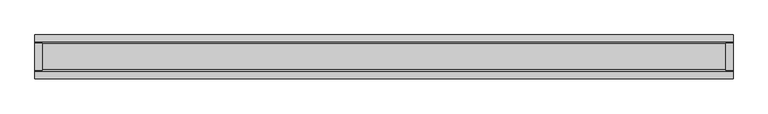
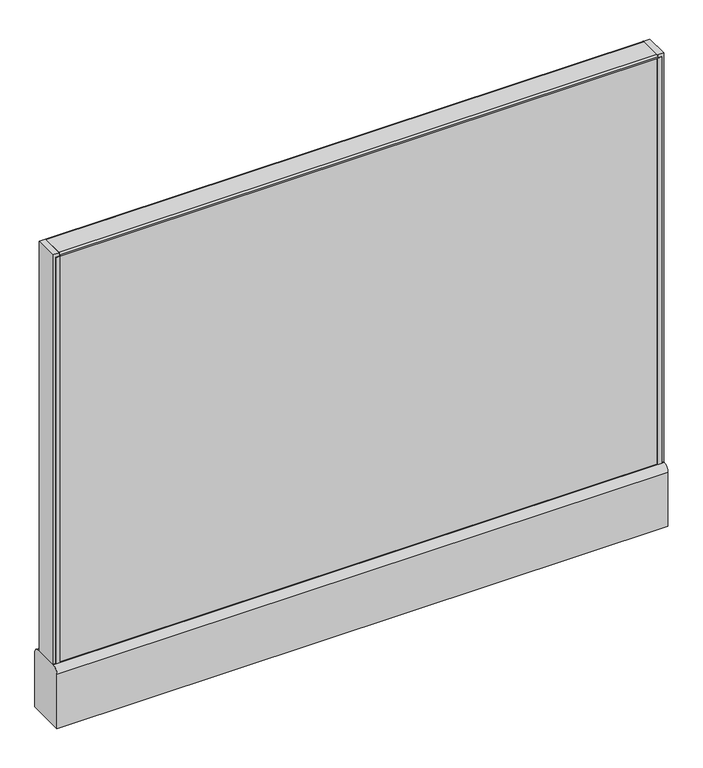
"""IFC4 building model written with IfcOpenShell, lengths in millimetres: furniture geometry."""

from ifc_helpers import new_model, si_unit, point, frame, frame_2d, origin, place, context, project, spatial, polyline, circle_curve, trimmed, segment, composite_curve, outline, extrude, source, transform, mapped, element, save
from ifc_brep_helpers import plane_surface, cylinder_surface, advanced_brep


def furniture_78394d11(model_context):
    return source(origin(), model_context, "Body", "SolidModel", [
        advanced_brep(
        [(552.45, 0.0, 0.0), (577.85, 0.0, 0.0), (565.15, 0.0, 0.0), (552.45, 0.0, 4.7625), (577.85, 0.0, 4.7625), (558.8, 0.0, 4.7625), (571.5, 0.0, 4.7625), (558.8, 0.0, 111.125), (571.5, 0.0, 111.125), (565.15, 0.0, 111.125)],
        [
            (0, 1, circle_curve(frame((565.15, 0.0, 0.0), z_axis=(0.0, 0.0, -1.0), x_axis=(1.0, 0.0, 0.0)), 12.7)),
            (1, 2),
            (2, 0),
            (1, 0, circle_curve(frame((565.15, 0.0, 0.0), z_axis=(0.0, 0.0, -1.0), x_axis=(1.0, 0.0, 0.0)), 12.7)),
            (3, 4, circle_curve(frame((565.15, 0.0, 4.7625), z_axis=(0.0, 0.0, -1.0), x_axis=(1.0, 0.0, 0.0)), 12.7)),
            (4, 1),
            (0, 3),
            (4, 3, circle_curve(frame((565.15, 0.0, 4.7625), z_axis=(0.0, 0.0, -1.0), x_axis=(1.0, 0.0, 0.0)), 12.7)),
            (5, 6, circle_curve(frame((565.15, 0.0, 4.7625), z_axis=(0.0, 0.0, -1.0), x_axis=(1.0, 0.0, 0.0)), 6.35)),
            (6, 4),
            (3, 5),
            (6, 5, circle_curve(frame((565.15, 0.0, 4.7625), z_axis=(0.0, 0.0, -1.0), x_axis=(1.0, 0.0, 0.0)), 6.35)),
            (7, 8, circle_curve(frame((565.15, 0.0, 111.125), z_axis=(0.0, 0.0, -1.0), x_axis=(1.0, 0.0, 0.0)), 6.35)),
            (8, 6),
            (5, 7),
            (8, 7, circle_curve(frame((565.15, 0.0, 111.125), z_axis=(0.0, 0.0, -1.0), x_axis=(1.0, 0.0, 0.0)), 6.35)),
            (9, 8),
            (7, 9),
        ],
        [
            plane_surface(frame((565.15, 0.0, 0.0), z_axis=(0.0, 0.0, -1.0), x_axis=(1.0, 0.0, 0.0))),
            cylinder_surface(frame((565.15, 0.0, 114.882153), z_axis=(0.0, 0.0, 1.0), x_axis=(1.0, 0.0, 0.0)), 12.7),
            plane_surface(frame((565.15, 0.0, 4.7625), z_axis=(0.0, 0.0, 1.0), x_axis=(1.0, 0.0, 0.0))),
            cylinder_surface(frame((565.15, 0.0, 114.882153), z_axis=(0.0, 0.0, 1.0), x_axis=(1.0, 0.0, 0.0)), 6.35),
            plane_surface(frame((565.15, 0.0, 111.125), z_axis=(0.0, 0.0, 1.0), x_axis=(1.0, 0.0, 0.0))),
        ],
        [
            (0, [[1, 2, 3]]),
            (0, [[4, -3, -2]]),
            (1, [[5, 6, -1, 7]]),
            (1, [[8, -7, -4, -6]]),
            (2, [[9, 10, -5, 11]]),
            (2, [[12, -11, -8, -10]]),
            (3, [[13, 14, -9, 15]]),
            (3, [[16, -15, -12, -14]]),
            (4, [[17, -13, 18]]),
            (4, [[-18, -16, -17]]),
        ],
    ),
        advanced_brep(
        [(-577.85, 0.0, 4.7625), (-552.45, 0.0, 4.7625), (-552.45, 0.0, 0.0), (-577.85, 0.0, 0.0), (-571.5, 0.0, 4.7625), (-558.8, 0.0, 4.7625), (-571.5, 0.0, 111.125), (-558.8, 0.0, 111.125), (-565.15, 0.0, 111.125), (-565.15, 0.0, 0.0)],
        [
            (0, 1, circle_curve(frame((-565.15, 0.0, 4.7625), z_axis=(0.0, 0.0, -1.0), x_axis=(1.0, 0.0, 0.0)), 12.7)),
            (1, 2),
            (2, 3, circle_curve(frame((-565.15, 0.0, 0.0), z_axis=(0.0, 0.0, 1.0), x_axis=(1.0, 0.0, 0.0)), 12.7)),
            (3, 0),
            (1, 0, circle_curve(frame((-565.15, 0.0, 4.7625), z_axis=(0.0, 0.0, -1.0), x_axis=(1.0, 0.0, 0.0)), 12.7)),
            (3, 2, circle_curve(frame((-565.15, 0.0, 0.0), z_axis=(0.0, 0.0, 1.0), x_axis=(1.0, 0.0, 0.0)), 12.7)),
            (4, 5, circle_curve(frame((-565.15, 0.0, 4.7625), z_axis=(0.0, 0.0, -1.0), x_axis=(1.0, 0.0, 0.0)), 6.35)),
            (5, 1),
            (0, 4),
            (5, 4, circle_curve(frame((-565.15, 0.0, 4.7625), z_axis=(0.0, 0.0, -1.0), x_axis=(1.0, 0.0, 0.0)), 6.35)),
            (6, 7, circle_curve(frame((-565.15, 0.0, 111.125), z_axis=(0.0, 0.0, -1.0), x_axis=(1.0, 0.0, 0.0)), 6.35)),
            (7, 5),
            (4, 6),
            (7, 6, circle_curve(frame((-565.15, 0.0, 111.125), z_axis=(0.0, 0.0, -1.0), x_axis=(1.0, 0.0, 0.0)), 6.35)),
            (8, 7),
            (6, 8),
            (2, 9),
            (9, 3),
        ],
        [
            cylinder_surface(frame((-565.15, 0.0, 123.825), z_axis=(0.0, 0.0, 1.0), x_axis=(1.0, 0.0, 0.0)), 12.7),
            plane_surface(frame((-565.15, 0.0, 4.7625), z_axis=(0.0, 0.0, 1.0), x_axis=(1.0, 0.0, 0.0))),
            cylinder_surface(frame((-565.15, 0.0, 123.825), z_axis=(0.0, 0.0, 1.0), x_axis=(1.0, 0.0, 0.0)), 6.35),
            plane_surface(frame((-565.15, 0.0, 111.125), z_axis=(0.0, 0.0, 1.0), x_axis=(1.0, 0.0, 0.0))),
            plane_surface(frame((-565.15, 0.0, 0.0), z_axis=(0.0, 0.0, -1.0), x_axis=(1.0, 0.0, 0.0))),
        ],
        [
            (0, [[1, 2, 3, 4]]),
            (0, [[5, -4, 6, -2]]),
            (1, [[7, 8, -1, 9]]),
            (1, [[10, -9, -5, -8]]),
            (2, [[11, 12, -7, 13]]),
            (2, [[14, -13, -10, -12]]),
            (3, [[15, -11, 16]]),
            (3, [[-16, -14, -15]]),
            (4, [[-3, 17, 18]]),
            (4, [[-6, -18, -17]]),
        ],
    ),
        extrude(outline(polyline([(-609.6, 23.8125), (-596.9, 23.8125), (-596.9, -23.8125), (-609.6, -23.8125), (-609.6, 23.8125)])), frame((0.0, 0.0, 136.525), z_axis=(0.0, 0.0, 1.0), x_axis=(1.0, 0.0, 0.0)), (0.0, 0.0, 1.0), 863.6),
        extrude(outline(polyline([(596.9, -23.8125), (596.9, 23.8125), (609.6, 23.8125), (609.6, -23.8125), (596.9, -23.8125)])), frame((0.0, 0.0, 136.525), z_axis=(0.0, 0.0, 1.0), x_axis=(1.0, 0.0, 0.0)), (0.0, 0.0, 1.0), 863.6),
        extrude(outline(polyline([(-596.9, 25.4), (-596.9, 23.8125), (-604.8375, 23.8125), (-604.8375, 25.4), (-596.9, 25.4)])), frame((0.0, 0.0, 136.525), z_axis=(0.0, 0.0, 1.0), x_axis=(1.0, 0.0, 0.0)), (0.0, 0.0, 1.0), 857.25),
        extrude(outline(polyline([(-596.9, -25.4), (-604.8375, -25.4), (-604.8375, -23.8125), (-596.9, -23.8125), (-596.9, -25.4)])), frame((0.0, 0.0, 136.525), z_axis=(0.0, 0.0, 1.0), x_axis=(1.0, 0.0, 0.0)), (0.0, 0.0, 1.0), 857.25),
        extrude(outline(polyline([(604.8375, 23.8125), (596.9, 23.8125), (596.9, 25.4), (604.8375, 25.4), (604.8375, 23.8125)])), frame((0.0, 0.0, 136.525), z_axis=(0.0, 0.0, 1.0), x_axis=(1.0, 0.0, 0.0)), (0.0, 0.0, 1.0), 857.25),
        extrude(outline(polyline([(596.9, -25.4), (596.9, -23.8125), (604.8375, -23.8125), (604.8375, -25.4), (596.9, -25.4)])), frame((0.0, 0.0, 136.525), z_axis=(0.0, 0.0, 1.0), x_axis=(1.0, 0.0, 0.0)), (0.0, 0.0, 1.0), 857.25),
        extrude(outline(composite_curve([segment(trimmed(circle_curve(frame_2d((22.225, 996.95)), 3.175), [point((22.225, 1000.125))], [point((25.4, 996.95))], False, "CARTESIAN"), True, "CONTINUOUS"), segment(polyline([(25.4, 996.95), (25.4, 993.775), (-25.4, 993.775), (-25.4, 996.95)]), True, "CONTINUOUS"), segment(trimmed(circle_curve(frame_2d((-22.225, 996.95)), 3.175), [point((-25.4, 996.95))], [point((-22.225, 1000.125))], False, "CARTESIAN"), True, "CONTINUOUS"), segment(polyline([(-22.225, 1000.125), (22.225, 1000.125)]), True, "CONTINUOUS")], self_intersect=False)), frame((-596.9, 0.0, 0.0), z_axis=(1.0, 0.0, 0.0), x_axis=(0.0, 1.0, 0.0)), (0.0, 0.0, 1.0), 1193.8),
        extrude(outline(composite_curve([segment(trimmed(circle_curve(frame_2d((25.4, 123.825)), 12.7), [point((25.4, 136.525))], [point((38.1, 123.825))], False, "CARTESIAN"), True, "CONTINUOUS"), segment(polyline([(38.1, 123.825), (38.1, 9.525), (-38.1, 9.525), (-38.1, 123.825)]), True, "CONTINUOUS"), segment(trimmed(circle_curve(frame_2d((-25.4, 123.825)), 12.7), [point((-38.1, 123.825))], [point((-25.4, 136.525))], False, "CARTESIAN"), True, "CONTINUOUS"), segment(polyline([(-25.4, 136.525), (25.4, 136.525)]), True, "CONTINUOUS")], self_intersect=False)), frame((-609.6, 0.0, 0.0), z_axis=(1.0, 0.0, 0.0), x_axis=(0.0, 1.0, 0.0)), (0.0, 0.0, 1.0), 1219.2),
        extrude(outline(polyline([(596.9, 23.8125), (596.9, -23.8125), (-596.9, -23.8125), (-596.9, 23.8125), (596.9, 23.8125)])), frame((0.0, 0.0, 136.525), z_axis=(0.0, 0.0, 1.0), x_axis=(1.0, 0.0, 0.0)), (0.0, 0.0, 1.0), 857.25),
    ])


if __name__ == "__main__":
    model = new_model("IFC4")
    model_context = context("Model", 3, world=origin())
    ifc_project = project(units=[si_unit("LENGTHUNIT", "METRE", prefix="MILLI")], contexts=[model_context])
    site = spatial("IfcSite", under=ifc_project)
    building = spatial("IfcBuilding", under=site)
    placement = place(None, origin())
    furniture_shape = furniture_78394d11(model_context)
    element("IfcFurniture", 1, ObjectType="HermanMiller_ActionOffice_A1110_Hard-SurfacedPanelStandardBase : 39\"H x 48\"W-N", at=placement, inside=building, context=model_context, shape_type="MappedRepresentation", body=[
        mapped(furniture_shape, transform((0.0, 0.0, 0.0), x_axis=(1.0, 0.0, 0.0), y_axis=(0.0, 1.0, 0.0), z_axis=(0.0, 0.0, 1.0))),
    ])
    save(model, "model.ifc")
